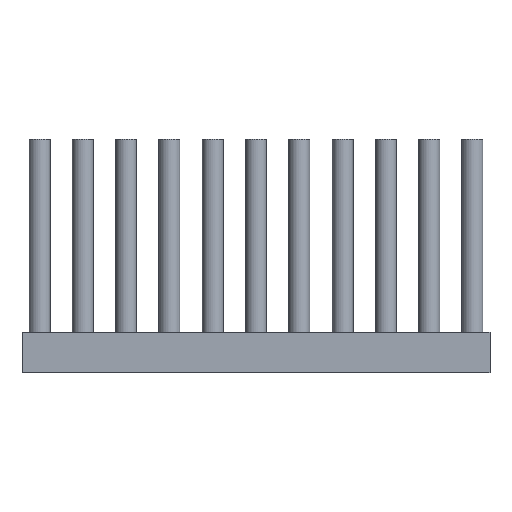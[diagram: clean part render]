
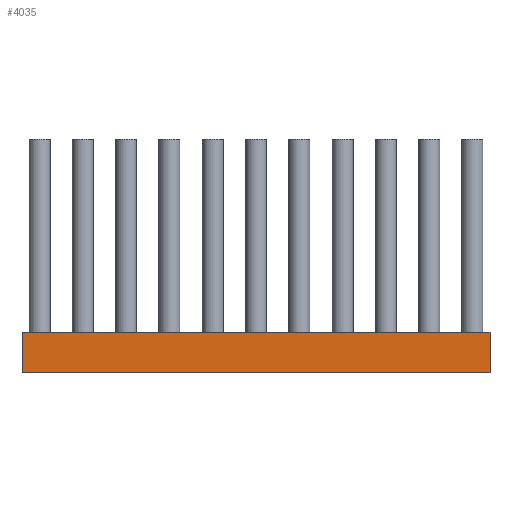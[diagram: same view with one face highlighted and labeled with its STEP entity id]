
A CAD part, front view. The second image highlights one B-rep face of the part: STEP entity #4035.
In plain terms, the highlighted planar face has unit normal (0, -1, 0).
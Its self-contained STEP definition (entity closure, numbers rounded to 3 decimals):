
#42 = VERTEX_POINT ( 'NONE', #6585 ) ;
#539 = DIRECTION ( 'NONE',  ( 1., 0., 0. ) ) ;
#612 = CARTESIAN_POINT ( 'NONE',  ( 38.5, -1.5, 0. ) ) ;
#673 = DIRECTION ( 'NONE',  ( 0., 0., 1. ) ) ;
#1413 = VERTEX_POINT ( 'NONE', #2926 ) ;
#1977 = ORIENTED_EDGE ( 'NONE', *, *, #4651, .F. ) ;
#2181 = LINE ( 'NONE', #8848, #8750 ) ;
#2422 = FACE_OUTER_BOUND ( 'NONE', #2771, .T. ) ;
#2669 = VECTOR ( 'NONE', #3844, 1000. ) ;
#2771 = EDGE_LOOP ( 'NONE', ( #7711, #1977, #4165, #3836 ) ) ;
#2926 = CARTESIAN_POINT ( 'NONE',  ( -1.5, -1.5, -3.5 ) ) ;
#3020 = LINE ( 'NONE', #6127, #2669 ) ;
#3836 = ORIENTED_EDGE ( 'NONE', *, *, #5288, .T. ) ;
#3844 = DIRECTION ( 'NONE',  ( 1., 0., 0. ) ) ;
#3878 = VERTEX_POINT ( 'NONE', #7898 ) ;
#4035 = ADVANCED_FACE ( 'NONE', ( #2422 ), #7358, .T. ) ;
#4165 = ORIENTED_EDGE ( 'NONE', *, *, #4255, .T. ) ;
#4255 = EDGE_CURVE ( 'NONE', #1413, #3878, #3020, .T. ) ;
#4260 = DIRECTION ( 'NONE',  ( 1., 0., 0. ) ) ;
#4269 = CARTESIAN_POINT ( 'NONE',  ( -1.5, -1.5, -3.5 ) ) ;
#4507 = EDGE_CURVE ( 'NONE', #42, #6384, #2181, .T. ) ;
#4651 = EDGE_CURVE ( 'NONE', #1413, #42, #9326, .T. ) ;
#5093 = DIRECTION ( 'NONE',  ( 0., -1., 0. ) ) ;
#5211 = CARTESIAN_POINT ( 'NONE',  ( -1.5, -1.5, -3.5 ) ) ;
#5265 = DIRECTION ( 'NONE',  ( 0., 0., 1. ) ) ;
#5279 = VECTOR ( 'NONE', #673, 1000. ) ;
#5288 = EDGE_CURVE ( 'NONE', #3878, #6384, #6116, .T. ) ;
#6116 = LINE ( 'NONE', #9061, #8609 ) ;
#6127 = CARTESIAN_POINT ( 'NONE',  ( -1.5, -1.5, -3.5 ) ) ;
#6384 = VERTEX_POINT ( 'NONE', #612 ) ;
#6585 = CARTESIAN_POINT ( 'NONE',  ( -1.5, -1.5, 0. ) ) ;
#7358 = PLANE ( 'NONE',  #8994 ) ;
#7711 = ORIENTED_EDGE ( 'NONE', *, *, #4507, .F. ) ;
#7898 = CARTESIAN_POINT ( 'NONE',  ( 38.5, -1.5, -3.5 ) ) ;
#8609 = VECTOR ( 'NONE', #5265, 1000. ) ;
#8750 = VECTOR ( 'NONE', #4260, 1000. ) ;
#8848 = CARTESIAN_POINT ( 'NONE',  ( -1.5, -1.5, 0. ) ) ;
#8994 = AXIS2_PLACEMENT_3D ( 'NONE', #4269, #5093, #539 ) ;
#9061 = CARTESIAN_POINT ( 'NONE',  ( 38.5, -1.5, -3.5 ) ) ;
#9326 = LINE ( 'NONE', #5211, #5279 ) ;
